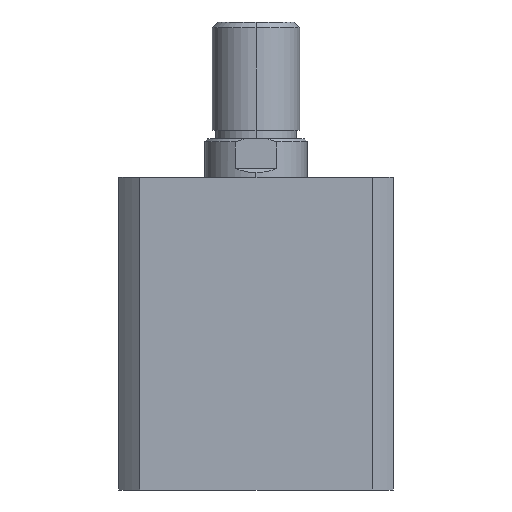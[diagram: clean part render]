
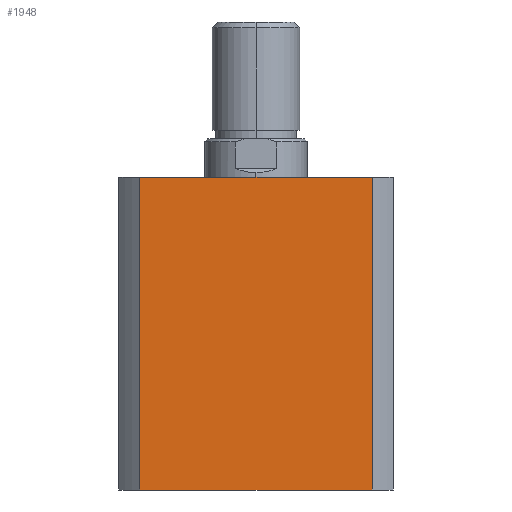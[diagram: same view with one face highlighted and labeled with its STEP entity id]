
A CAD part, left-side view. The second image highlights one B-rep face of the part: STEP entity #1948.
In plain terms, the highlighted planar face has unit normal (-1, 0, 0).
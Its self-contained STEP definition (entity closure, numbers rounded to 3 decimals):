
#62 = DIRECTION ( 'NONE',  ( 0., 0., -1. ) ) ;
#69 = CARTESIAN_POINT ( 'NONE',  ( -47., 39.664, 107. ) ) ;
#71 = CARTESIAN_POINT ( 'NONE',  ( -47., 0., 0. ) ) ;
#76 = DIRECTION ( 'NONE',  ( 0., -1., 0. ) ) ;
#77 = CARTESIAN_POINT ( 'NONE',  ( -47., -39.664, 107. ) ) ;
#79 = DIRECTION ( 'NONE',  ( 0., 0., -1. ) ) ;
#194 = CARTESIAN_POINT ( 'NONE',  ( -47., 0., 107. ) ) ;
#199 = PLANE ( 'NONE',  #3645 ) ;
#202 = DIRECTION ( 'NONE',  ( 1., 0., 0. ) ) ;
#203 = DIRECTION ( 'NONE',  ( 0., 0., -1. ) ) ;
#586 = VERTEX_POINT ( 'NONE', #2324 ) ;
#587 = VERTEX_POINT ( 'NONE', #2325 ) ;
#606 = VERTEX_POINT ( 'NONE', #2344 ) ;
#607 = VERTEX_POINT ( 'NONE', #2345 ) ;
#781 = EDGE_LOOP ( 'NONE', ( #4213, #3227, #3228, #3229 ) ) ;
#973 = FACE_OUTER_BOUND ( 'NONE', #781, .T. ) ;
#1948 = ADVANCED_FACE ( 'NONE', ( #973 ), #199, .F. ) ;
#2324 = CARTESIAN_POINT ( 'NONE',  ( -47., 39.664, 107. ) ) ;
#2325 = CARTESIAN_POINT ( 'NONE',  ( -47., -39.664, 107. ) ) ;
#2344 = CARTESIAN_POINT ( 'NONE',  ( -47., 39.664, 0. ) ) ;
#2345 = CARTESIAN_POINT ( 'NONE',  ( -47., -39.664, 0. ) ) ;
#3227 = ORIENTED_EDGE ( 'NONE', *, *, #3554, .F. ) ;
#3228 = ORIENTED_EDGE ( 'NONE', *, *, #3519, .F. ) ;
#3229 = ORIENTED_EDGE ( 'NONE', *, *, #3552, .T. ) ;
#3519 = EDGE_CURVE ( 'NONE', #586, #587, #4356, .T. ) ;
#3552 = EDGE_CURVE ( 'NONE', #586, #606, #4398, .T. ) ;
#3553 = EDGE_CURVE ( 'NONE', #606, #607, #4396, .T. ) ;
#3554 = EDGE_CURVE ( 'NONE', #587, #607, #4401, .T. ) ;
#3645 = AXIS2_PLACEMENT_3D ( 'NONE', #194, #202, #203 ) ;
#4079 = DIRECTION ( 'NONE',  ( 0., -1., 0. ) ) ;
#4084 = CARTESIAN_POINT ( 'NONE',  ( -47., 0., 107. ) ) ;
#4213 = ORIENTED_EDGE ( 'NONE', *, *, #3553, .T. ) ;
#4356 = LINE ( 'NONE', #4084, #4358 ) ;
#4358 = VECTOR ( 'NONE', #4079, 1000. ) ;
#4396 = LINE ( 'NONE', #71, #4402 ) ;
#4398 = LINE ( 'NONE', #69, #4400 ) ;
#4400 = VECTOR ( 'NONE', #62, 1000. ) ;
#4401 = LINE ( 'NONE', #77, #4404 ) ;
#4402 = VECTOR ( 'NONE', #76, 1000. ) ;
#4404 = VECTOR ( 'NONE', #79, 1000. ) ;
